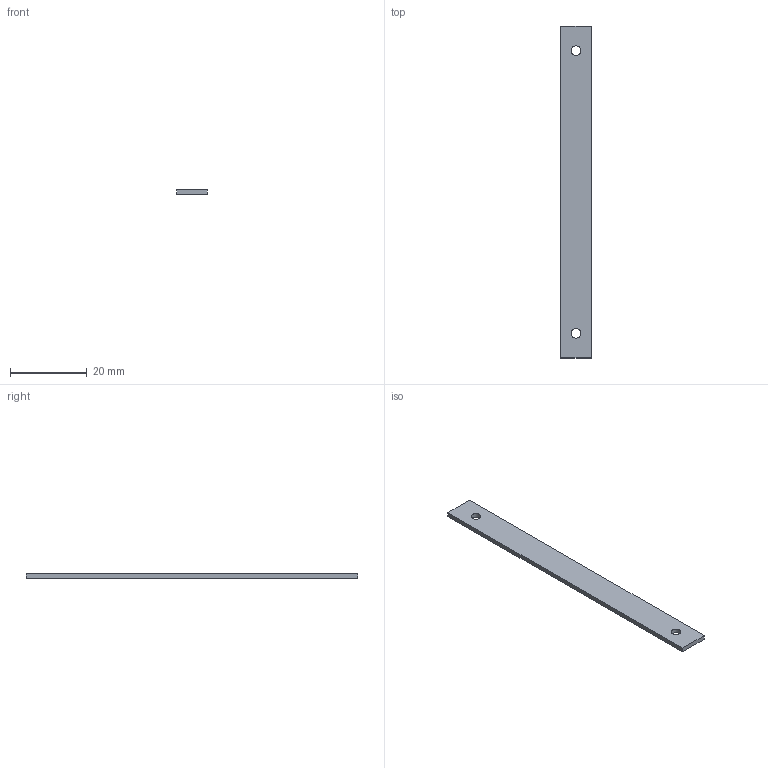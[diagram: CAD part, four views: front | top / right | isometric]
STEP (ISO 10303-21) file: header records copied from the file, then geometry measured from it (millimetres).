
FILE_DESCRIPTION(('Open CASCADE Model'),'2;1');
FILE_NAME('Open CASCADE Shape Model','2026-10-06T09:51:05',('Author'),( 'Open CASCADE'),'Open CASCADE STEP processor 7.9','Open CASCADE 7.9' ,'Unknown');
FILE_SCHEMA(('AUTOMOTIVE_DESIGN { 1 0 10303 214 1 1 1 1 }'));
Length unit declared in the file: millimetre
Products named in the file (1): Open CASCADE STEP translator 7.9 4
Bounding box: 8 x 86.48 x 1.2 mm (x, y, z)
Volume: 818.4 mm3; surface area: 1609.6 mm2
Topology: 1 solids, 1 shells, 8 faces, 18 edges, 12 vertices
Faces by surface type: plane 6, cylinder 2
Full cylindrical faces by diameter (mm): 2.5 x2
Entity records: 478 total; most frequent: DIRECTION 76, CARTESIAN_POINT 75, LINE 46, VECTOR 46, ORIENTED_EDGE 36, PCURVE 36, DEFINITIONAL_REPRESENTATION 36, EDGE_CURVE 18
